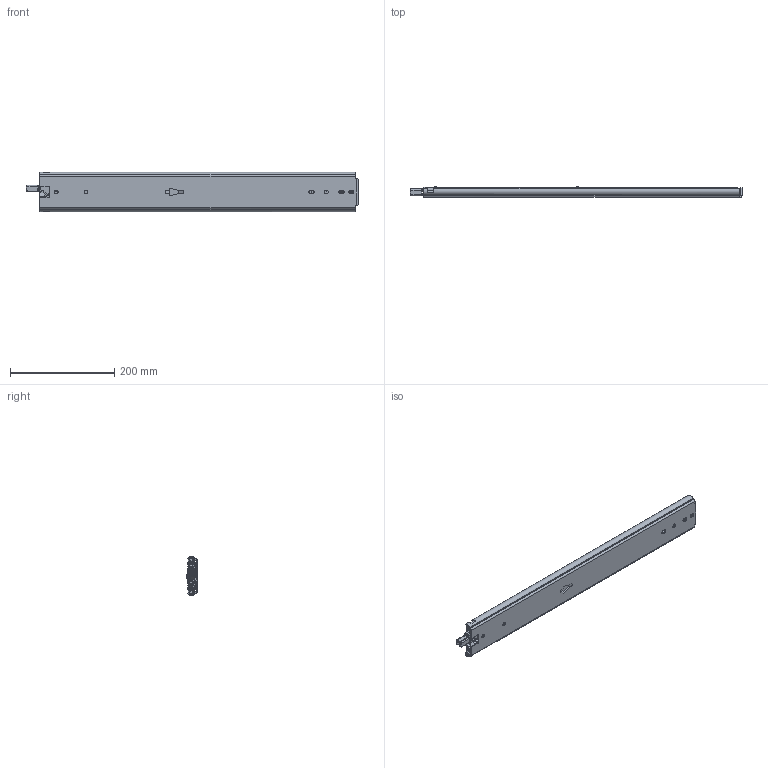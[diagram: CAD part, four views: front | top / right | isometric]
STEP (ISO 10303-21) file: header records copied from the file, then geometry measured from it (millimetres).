
FILE_DESCRIPTION((''),'2;1');
FILE_NAME('DCL2307619-609-CLOSE_ASM_ASM','2023-05-10T',('jishu015'),(''),'PRO/ENGINEER BY PARAMETRIC TECHNOLOGY CORPORATION, 2010280','PRO/ENGINEER BY PARAMETRIC TECHNOLOGY CORPORATION, 2010280','');
FILE_SCHEMA(('CONFIG_CONTROL_DESIGN'));
Length unit declared in the file: millimetre
Products named in the file (32): KP-76-04WAIKE-1816_____2; 1076-WAIKEZIDANJIAO16_____1; WAIK16_____ASM_1_ASM; 1076XIAOZHUTIAO-22516_____1; 16_____1; 1076XIAOZHUTIAO-17516_____ASM_1_ASM; KP-76-04ZHONGGUI1816_____1; 76CHANGGUIZHONGGUIJIAO16_____1; 3X6WODIN16_____1; ZHONGGUIBAIKOU16_____1; PJ-76-30____1; PJ-76-03____1; 76-XIAOZHUJIA-11____1; GANGZHU-XIAO____1; ZHUJIA-XIAO____ASM_1_ASM; ZHONGGUI6_____ASM_2_ASM; KP-76-04NEIGUI1816_____2; PJ-76-31____1; DAOGPIAN16_____1; MANIFOLD_SOLID_BREP_58917; MANIFOLD_SOLID_BREP_59358; 1053-3SBANJ01____2_ASM; JIAO-11____2; 76XINSUOKOU____2; PJ-338____1; PJ-356____1; PJ-357____1; PJ-336____1; M4X4____1; NEIGUI16_____ASM_2_ASM; DG-76-3S-24YOU_ASM_2_ASM; DCL2307619-609-CLOSE_ASM_ASM
Assembly tree (61 placements, depth 5):
  DCL2307619-609-CLOSE_ASM_ASM
    DG-76-3S-24YOU_ASM_2_ASM
      WAIK16_____ASM_1_ASM
        KP-76-04WAIKE-1816_____2
        1076-WAIKEZIDANJIAO16_____1  x2
      1076XIAOZHUTIAO-17516_____ASM_1_ASM  x2
        1076XIAOZHUTIAO-22516_____1
        16_____1
      ZHONGGUI6_____ASM_2_ASM
        KP-76-04ZHONGGUI1816_____1
        76CHANGGUIZHONGGUIJIAO16_____1
        3X6WODIN16_____1
        ZHONGGUIBAIKOU16_____1
        PJ-76-30____1
        PJ-76-03____1
        ZHUJIA-XIAO____ASM_1_ASM
          76-XIAOZHUJIA-11____1
          GANGZHU-XIAO____1  x20
      NEIGUI16_____ASM_2_ASM
        KP-76-04NEIGUI1816_____2
        PJ-76-31____1
        DAOGPIAN16_____1
        1053-3SBANJ01____2_ASM
          MANIFOLD_SOLID_BREP_58917
          MANIFOLD_SOLID_BREP_59358
        JIAO-11____2
        76XINSUOKOU____2
        PJ-338____1
        PJ-356____1
        PJ-357____1
        PJ-336____1
        M4X4____1
Bounding box: 635.52 x 20.7 x 75.29 mm (x, y, z)
Volume: 398917.9 mm3; surface area: 384182.4 mm2
Topology: 64 solids, 64 shells, 2060 faces, 6454 edges, 4249 vertices
Faces by surface type: plane 874, cylinder 762, sphere 147, bspline 129, torus 96, cone 28, extrusion 24
Entity records: 75080 total; most frequent: CARTESIAN_POINT 24481, ORIENTED_EDGE 11284, DIRECTION 9863, EDGE_CURVE 5642, VERTEX_POINT 3792, AXIS2_PLACEMENT_3D 3570, VECTOR 2723, LINE 2699
